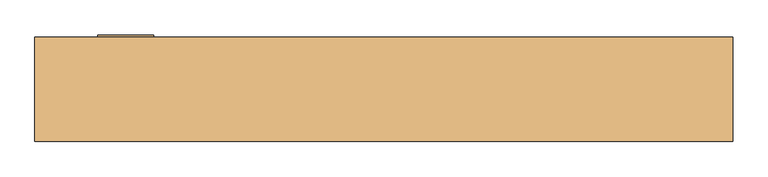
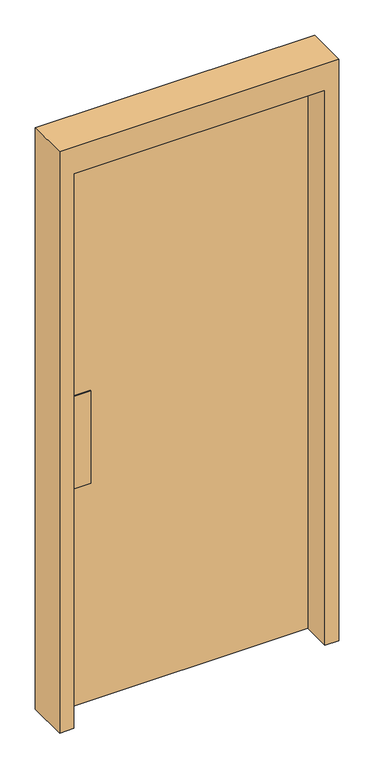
"""IFC4 building model written with IfcOpenShell, lengths in millimetres: door geometry, Porta-Passagem-Única-Nivelada-Dupla_Agindo : Porta-Passagem-Única-Nivelada-Dupla_Agindo."""

from ifc_helpers import new_model, si_unit, frame, origin, origin_with_axes, place, context, project, spatial, polyline, outline, extrude, source, transform, mapped, element, save


def door_abbd5f23(model_context):
    return source(origin(), model_context, "Body", "SweptSolid", [
        extrude(outline(polyline([(-410.0, 8.175), (-410.0, 11.35), (-330.0, 11.35), (-330.0, 8.175), (-410.0, 8.175)])), frame((0.0, 0.0, 825.0), z_axis=(0.0, 0.0, 1.0), x_axis=(1.0, 0.0, 0.0)), (0.0, 0.0, 1.0), 350.0),
        extrude(outline(polyline([(-410.0, 59.525), (-330.0, 59.525), (-330.0, 56.35), (-410.0, 56.35), (-410.0, 59.525)])), frame((0.0, 0.0, 825.0), z_axis=(0.0, 0.0, 1.0), x_axis=(1.0, 0.0, 0.0)), (0.0, 0.0, 1.0), 350.0),
        extrude(outline(polyline([(0.0, 450.0), (0.0, 500.0), (2200.0, 500.0), (2200.0, -500.0), (0.0, -500.0), (0.0, -450.0), (2100.0, -450.0), (2100.0, 450.0), (0.0, 450.0)])), frame((0.0, -93.65, 0.0), z_axis=(0.0, 1.0, 0.0), x_axis=(0.0, 0.0, 1.0)), (0.0, 0.0, 1.0), 150.0),
        extrude(outline(polyline([(450.0, 11.35), (-450.0, 11.35), (-450.0, 56.35), (450.0, 56.35), (450.0, 11.35)])), origin_with_axes(), (0.0, 0.0, 1.0), 2100.0),
    ])


if __name__ == "__main__":
    model = new_model("IFC4")
    model_context = context("Model", 3, world=origin())
    ifc_project = project(units=[si_unit("LENGTHUNIT", "METRE", prefix="MILLI")], contexts=[model_context])
    site = spatial("IfcSite", under=ifc_project)
    building = spatial("IfcBuilding", under=site)
    placement = place(None, origin())
    door_shape = door_abbd5f23(model_context)
    element("IfcDoor", 1, ObjectType="Porta-Passagem-Única-Nivelada-Dupla_Agindo : Porta-Passagem-Única-Nivelada-Dupla_Agindo", at=placement, inside=building, context=model_context, shape_type="MappedRepresentation", body=[
        mapped(door_shape, transform((0.0, 0.0, 0.0), x_axis=(1.0, 0.0, 0.0), y_axis=(0.0, 1.0, 0.0), z_axis=(0.0, 0.0, 1.0))),
    ])
    save(model, "model.ifc")
